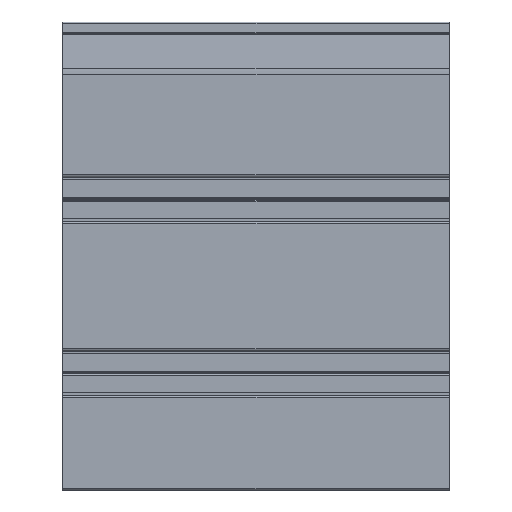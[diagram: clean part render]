
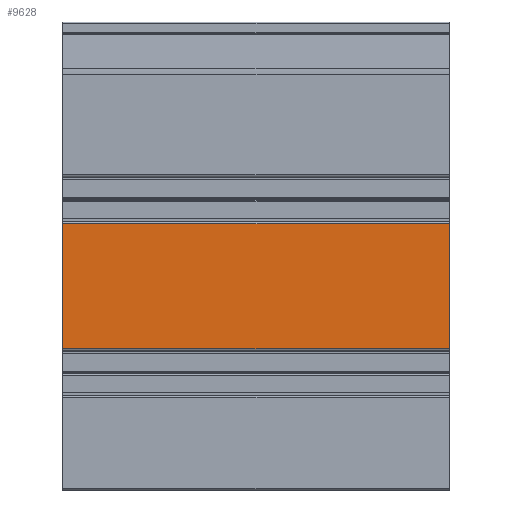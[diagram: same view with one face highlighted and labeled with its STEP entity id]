
A CAD part, front view. The second image highlights one B-rep face of the part: STEP entity #9628.
In plain terms, the highlighted planar face has unit normal (0, -1, 0).
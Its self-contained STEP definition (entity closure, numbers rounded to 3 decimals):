
#733 = CARTESIAN_POINT ( 'NONE',  ( -40.816, 32.398, 6.3 ) ) ;
#1722 = CARTESIAN_POINT ( 'NONE',  ( -40.816, 32.398, 6.3 ) ) ;
#1992 = DIRECTION ( 'NONE',  ( 0., 0., -1. ) ) ;
#2078 = CARTESIAN_POINT ( 'NONE',  ( 59.184, 32.398, 38.7 ) ) ;
#2193 = AXIS2_PLACEMENT_3D ( 'NONE', #3193, #10733, #9617 ) ;
#2400 = ORIENTED_EDGE ( 'NONE', *, *, #7978, .T. ) ;
#2572 = ORIENTED_EDGE ( 'NONE', *, *, #2655, .F. ) ;
#2655 = EDGE_CURVE ( 'NONE', #11081, #7928, #2995, .T. ) ;
#2853 = CARTESIAN_POINT ( 'NONE',  ( 59.184, 32.398, 6.3 ) ) ;
#2995 = LINE ( 'NONE', #2853, #4892 ) ;
#3193 = CARTESIAN_POINT ( 'NONE',  ( 59.184, 32.398, 6.3 ) ) ;
#3267 = CARTESIAN_POINT ( 'NONE',  ( 59.184, 32.398, 6.3 ) ) ;
#3911 = EDGE_CURVE ( 'NONE', #7928, #9259, #10995, .T. ) ;
#4084 = LINE ( 'NONE', #5122, #11970 ) ;
#4456 = DIRECTION ( 'NONE',  ( 0., 0., -1. ) ) ;
#4892 = VECTOR ( 'NONE', #1992, 1000. ) ;
#5025 = PLANE ( 'NONE',  #2193 ) ;
#5122 = CARTESIAN_POINT ( 'NONE',  ( 59.184, 32.398, 38.7 ) ) ;
#5506 = LINE ( 'NONE', #733, #12070 ) ;
#6261 = EDGE_CURVE ( 'NONE', #11081, #9247, #4084, .T. ) ;
#6382 = CARTESIAN_POINT ( 'NONE',  ( -40.816, 32.398, 38.7 ) ) ;
#7689 = EDGE_LOOP ( 'NONE', ( #2400, #9337, #2572, #9160 ) ) ;
#7858 = DIRECTION ( 'NONE',  ( -1., 0., 0. ) ) ;
#7928 = VERTEX_POINT ( 'NONE', #8107 ) ;
#7978 = EDGE_CURVE ( 'NONE', #9247, #9259, #5506, .T. ) ;
#8107 = CARTESIAN_POINT ( 'NONE',  ( 59.184, 32.398, 6.3 ) ) ;
#9160 = ORIENTED_EDGE ( 'NONE', *, *, #6261, .T. ) ;
#9247 = VERTEX_POINT ( 'NONE', #6382 ) ;
#9259 = VERTEX_POINT ( 'NONE', #1722 ) ;
#9337 = ORIENTED_EDGE ( 'NONE', *, *, #3911, .F. ) ;
#9617 = DIRECTION ( 'NONE',  ( 0., 0., 1. ) ) ;
#9628 = ADVANCED_FACE ( 'NONE', ( #11228 ), #5025, .F. ) ;
#10699 = DIRECTION ( 'NONE',  ( -1., 0., 0. ) ) ;
#10733 = DIRECTION ( 'NONE',  ( 0., 1., 0. ) ) ;
#10995 = LINE ( 'NONE', #3267, #11289 ) ;
#11081 = VERTEX_POINT ( 'NONE', #2078 ) ;
#11228 = FACE_OUTER_BOUND ( 'NONE', #7689, .T. ) ;
#11289 = VECTOR ( 'NONE', #7858, 1000. ) ;
#11970 = VECTOR ( 'NONE', #10699, 1000. ) ;
#12070 = VECTOR ( 'NONE', #4456, 1000. ) ;
